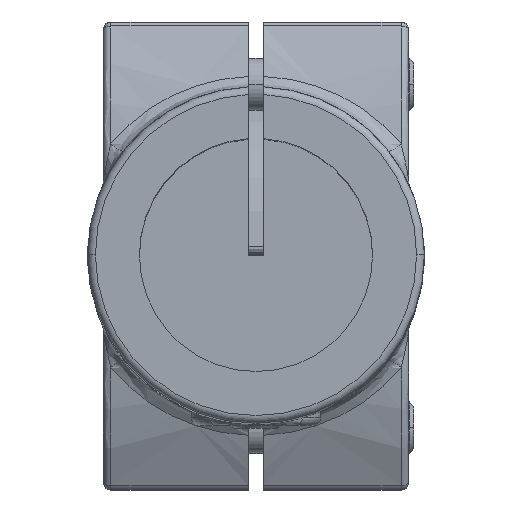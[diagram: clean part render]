
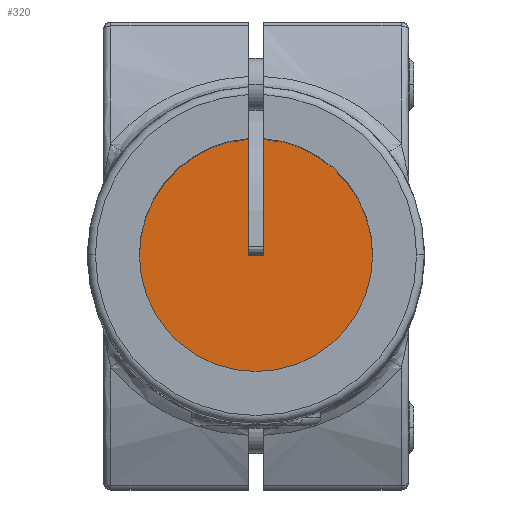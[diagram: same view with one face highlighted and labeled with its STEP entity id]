
A CAD part, top view. The second image highlights one B-rep face of the part: STEP entity #320.
In plain terms, the highlighted planar face has unit normal (0, 0, 1) as drawn and (0, 0, -1) by its records, which use the part's own axes.
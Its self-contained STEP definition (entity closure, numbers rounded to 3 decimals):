
#320 = ADVANCED_FACE ( 'NONE', ( #8781 ), #7190, .T. ) ;
#437 = DIRECTION ( 'NONE',  ( -1., 0., 0. ) ) ;
#776 = CARTESIAN_POINT ( 'NONE',  ( -1.5, 0., 74. ) ) ;
#1199 = CARTESIAN_POINT ( 'NONE',  ( 0., 0., 74. ) ) ;
#1387 = EDGE_CURVE ( 'NONE', #18966, #5506, #3692, .T. ) ;
#1756 = CIRCLE ( 'NONE', #16991, 22.5 ) ;
#2702 = EDGE_CURVE ( 'NONE', #5997, #15003, #11234, .T. ) ;
#2703 = CARTESIAN_POINT ( 'NONE',  ( 22.5, 0., 74. ) ) ;
#2894 = EDGE_CURVE ( 'NONE', #4209, #11433, #19182, .T. ) ;
#3112 = ORIENTED_EDGE ( 'NONE', *, *, #2702, .T. ) ;
#3203 = CARTESIAN_POINT ( 'NONE',  ( -22.5, 0., 74. ) ) ;
#3395 = EDGE_CURVE ( 'NONE', #15003, #18966, #10316, .T. ) ;
#3692 = LINE ( 'NONE', #18711, #8639 ) ;
#3869 = CARTESIAN_POINT ( 'NONE',  ( 1.5, 45., 74. ) ) ;
#4209 = VERTEX_POINT ( 'NONE', #15310 ) ;
#4218 = VECTOR ( 'NONE', #8644, 1000. ) ;
#4483 = EDGE_CURVE ( 'NONE', #4209, #5997, #1756, .T. ) ;
#4774 = DIRECTION ( 'NONE',  ( -1., 0., 0. ) ) ;
#5506 = VERTEX_POINT ( 'NONE', #6340 ) ;
#5593 = CARTESIAN_POINT ( 'NONE',  ( 0., 0., 74. ) ) ;
#5997 = VERTEX_POINT ( 'NONE', #2703 ) ;
#6340 = CARTESIAN_POINT ( 'NONE',  ( -1.5, 0., 74. ) ) ;
#7190 = PLANE ( 'NONE',  #17139 ) ;
#8248 = CARTESIAN_POINT ( 'NONE',  ( -1.5, 22.45, 74. ) ) ;
#8365 = DIRECTION ( 'NONE',  ( 0., -1., 0. ) ) ;
#8564 = ORIENTED_EDGE ( 'NONE', *, *, #3395, .T. ) ;
#8639 = VECTOR ( 'NONE', #9785, 1000. ) ;
#8644 = DIRECTION ( 'NONE',  ( -1., 0., 0. ) ) ;
#8781 = FACE_OUTER_BOUND ( 'NONE', #12738, .T. ) ;
#9785 = DIRECTION ( 'NONE',  ( 0., -1., 0. ) ) ;
#10088 = DIRECTION ( 'NONE',  ( 0., 0., -1. ) ) ;
#10121 = ORIENTED_EDGE ( 'NONE', *, *, #11739, .F. ) ;
#10276 = DIRECTION ( 'NONE',  ( 0., 0., -1. ) ) ;
#10316 = CIRCLE ( 'NONE', #12878, 22.5 ) ;
#11234 = CIRCLE ( 'NONE', #13138, 22.5 ) ;
#11433 = VERTEX_POINT ( 'NONE', #17702 ) ;
#11569 = ORIENTED_EDGE ( 'NONE', *, *, #4483, .T. ) ;
#11690 = DIRECTION ( 'NONE',  ( -1., 0., 0. ) ) ;
#11739 = EDGE_CURVE ( 'NONE', #11433, #5506, #13244, .T. ) ;
#12354 = CARTESIAN_POINT ( 'NONE',  ( 0., 0., 74. ) ) ;
#12738 = EDGE_LOOP ( 'NONE', ( #11569, #3112, #8564, #16186, #10121, #19604 ) ) ;
#12878 = AXIS2_PLACEMENT_3D ( 'NONE', #5593, #10088, #11690 ) ;
#13138 = AXIS2_PLACEMENT_3D ( 'NONE', #12354, #18383, #4774 ) ;
#13244 = LINE ( 'NONE', #776, #4218 ) ;
#13907 = CARTESIAN_POINT ( 'NONE',  ( 0., 0., 74. ) ) ;
#15003 = VERTEX_POINT ( 'NONE', #3203 ) ;
#15310 = CARTESIAN_POINT ( 'NONE',  ( 1.5, 22.45, 74. ) ) ;
#16186 = ORIENTED_EDGE ( 'NONE', *, *, #1387, .T. ) ;
#16854 = DIRECTION ( 'NONE',  ( 0., 0., -1. ) ) ;
#16940 = VECTOR ( 'NONE', #8365, 1000. ) ;
#16991 = AXIS2_PLACEMENT_3D ( 'NONE', #13907, #16854, #437 ) ;
#17139 = AXIS2_PLACEMENT_3D ( 'NONE', #1199, #10276, #19290 ) ;
#17702 = CARTESIAN_POINT ( 'NONE',  ( 1.5, 0., 74. ) ) ;
#18383 = DIRECTION ( 'NONE',  ( 0., 0., -1. ) ) ;
#18711 = CARTESIAN_POINT ( 'NONE',  ( -1.5, 45., 74. ) ) ;
#18966 = VERTEX_POINT ( 'NONE', #8248 ) ;
#19182 = LINE ( 'NONE', #3869, #16940 ) ;
#19290 = DIRECTION ( 'NONE',  ( -1., 0., 0. ) ) ;
#19604 = ORIENTED_EDGE ( 'NONE', *, *, #2894, .F. ) ;
